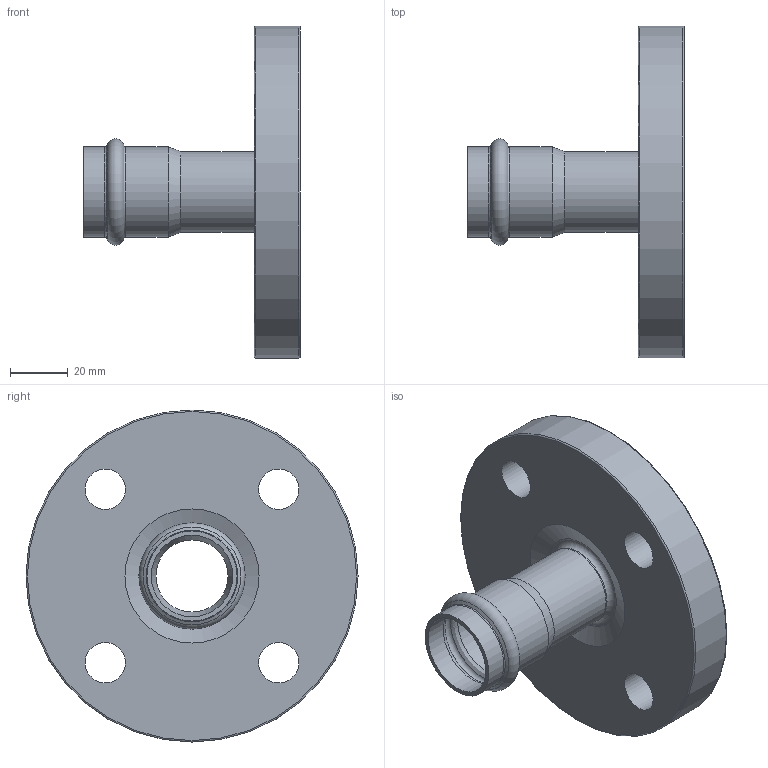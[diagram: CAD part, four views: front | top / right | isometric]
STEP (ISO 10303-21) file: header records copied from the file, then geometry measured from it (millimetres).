
FILE_DESCRIPTION((''),'2;1');
FILE_NAME('G:\Technics\CAD\Bauteile\028\6VAPF28(2).stp','2008-02-28T08:52:01',('herberg'),(''),'Autodesk Inventor 2008','Autodesk Inventor 2008','');
FILE_SCHEMA(('AUTOMOTIVE_DESIGN { 1 0 10303 214 1 1 1 1 }'));
Length unit declared in the file: millimetre
Products named in the file (3): 6VAPF28(2); HM_6VAPF28(0); Flansch28(2)
Assembly tree (2 placements, depth 2):
  6VAPF28(2)
    HM_6VAPF28(0)
    Flansch28(2)
Bounding box: 75 x 115 x 115 mm (x, y, z)
Volume: 155338.1 mm3; surface area: 39895.4 mm2
Topology: 2 solids, 2 shells, 32 faces, 65 edges, 38 vertices
Faces by surface type: cylinder 13, cone 5, torus 5, plane 5, bspline 4
Full cylindrical faces by diameter (mm): 14 x4, 25 x2, 28 x2, 28.2 x2, 31.2 x2, 115 x1
Entity records: 950 total; most frequent: CARTESIAN_POINT 285, DIRECTION 138, ORIENTED_EDGE 72, EDGE_LOOP 72, AXIS2_PLACEMENT_3D 69, FACE_BOUND 40, VERTEX_POINT 36, CIRCLE 36
